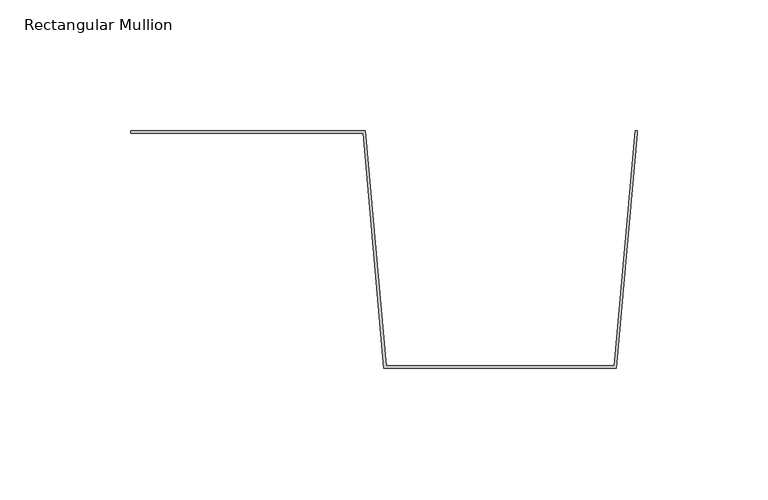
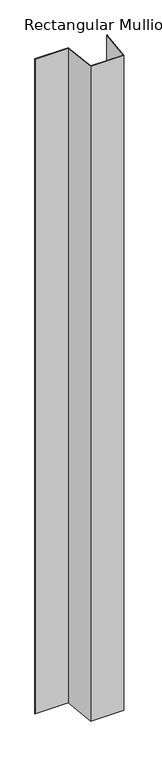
"""IFC4 building model written with IfcOpenShell, lengths in millimetres: member geometry, Rectangular Mullion : CD_NINELINE_Box Intermediate."""

from ifc_helpers import new_model, si_unit, frame, origin, place, context, project, spatial, polyline, outline, extrude, source, transform, mapped, element, save


def rectangular_mullion_c30dfc19(model_context):
    return source(origin(), model_context, "Body", "SweptSolid", [
        extrude(outline(polyline([(0.0, 0.0), (89.911879, 0.0), (97.911879, -90.0), (185.088121, -90.0), (193.088121, 0.0), (194.0, 0.0), (194.0, -1.0357186), (186.0, -91.0357186), (97.0, -91.0357186), (88.996825, -1.0), (0.0, -1.0), (0.0, 0.0)])), frame((0.0, 0.0, -1860.0), z_axis=(0.0, 0.0, 1.0), x_axis=(1.0, 0.0, 0.0)), (0.0, 0.0, 1.0), 1860.0),
    ])


if __name__ == "__main__":
    model = new_model("IFC4")
    model_context = context("Model", 3, world=origin())
    ifc_project = project(units=[si_unit("LENGTHUNIT", "METRE", prefix="MILLI")], contexts=[model_context])
    site = spatial("IfcSite", under=ifc_project)
    building = spatial("IfcBuilding", under=site)
    placement = place(None, origin())
    rectangular_mullion_shape = rectangular_mullion_c30dfc19(model_context)
    element("IfcMember", 1, ObjectType="Rectangular Mullion : CD_NINELINE_Box Intermediate", at=placement, inside=building, context=model_context, shape_type="MappedRepresentation", body=[
        mapped(rectangular_mullion_shape, transform((0.0, 0.0, 0.0), x_axis=(1.0, 0.0, 0.0), y_axis=(0.0, 1.0, 0.0), z_axis=(0.0, 0.0, 1.0))),
    ])
    save(model, "model.ifc")
